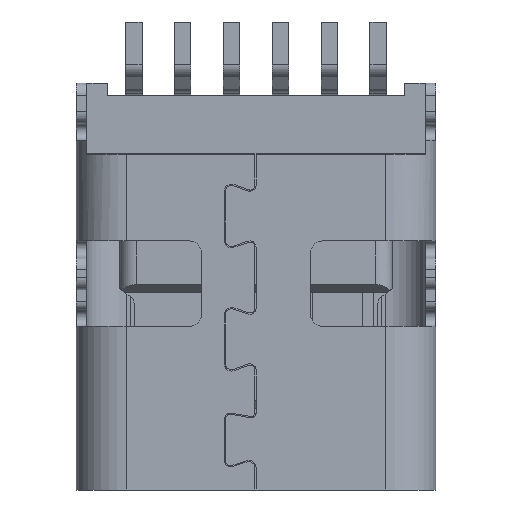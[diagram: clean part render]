
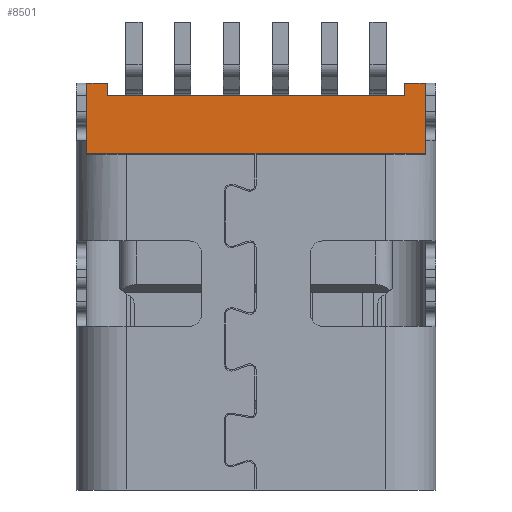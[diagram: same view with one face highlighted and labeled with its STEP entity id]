
A CAD part, front view. The second image highlights one B-rep face of the part: STEP entity #8501.
In plain terms, the highlighted planar face has unit normal (0, -1, 0).
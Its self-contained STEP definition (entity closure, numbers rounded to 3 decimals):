
#1654=DIRECTION('',(0.,0.,1.));
#1655=VECTOR('',#1654,1.74);
#1656=CARTESIAN_POINT('',(4.155,-1.495,-5.778));
#1657=LINE('',#1656,#1655);
#1670=DIRECTION('',(1.,0.,0.));
#1671=VECTOR('',#1670,7.31);
#1672=CARTESIAN_POINT('',(-3.655,-1.495,-4.338));
#1673=LINE('',#1672,#1671);
#1678=DIRECTION('',(0.,0.,1.));
#1679=VECTOR('',#1678,0.3);
#1680=CARTESIAN_POINT('',(-3.655,-1.495,-4.338));
#1681=LINE('',#1680,#1679);
#1694=DIRECTION('',(-1.,0.,0.));
#1695=VECTOR('',#1694,0.5);
#1696=CARTESIAN_POINT('',(-3.655,-1.495,-4.038));
#1697=LINE('',#1696,#1695);
#1733=DIRECTION('',(0.,0.,-1.));
#1734=VECTOR('',#1733,1.74);
#1735=CARTESIAN_POINT('',(-4.155,-1.495,-4.038));
#1736=LINE('',#1735,#1734);
#1757=DIRECTION('',(1.,0.,0.));
#1758=VECTOR('',#1757,8.31);
#1759=CARTESIAN_POINT('',(-4.155,-1.495,-5.778));
#1760=LINE('',#1759,#1758);
#2006=DIRECTION('',(-1.,0.,0.));
#2007=VECTOR('',#2006,0.5);
#2008=CARTESIAN_POINT('',(4.155,-1.495,-4.038));
#2009=LINE('',#2008,#2007);
#2033=DIRECTION('',(0.,0.,-1.));
#2034=VECTOR('',#2033,0.3);
#2035=CARTESIAN_POINT('',(3.655,-1.495,-4.038));
#2036=LINE('',#2035,#2034);
#5106=CARTESIAN_POINT('',(-3.655,-1.495,-4.338));
#5107=CARTESIAN_POINT('',(3.655,-1.495,-4.338));
#5108=VERTEX_POINT('',#5106);
#5109=VERTEX_POINT('',#5107);
#5330=CARTESIAN_POINT('',(3.655,-1.495,-4.038));
#5331=VERTEX_POINT('',#5330);
#5590=CARTESIAN_POINT('',(-4.155,-1.495,-4.038));
#5591=CARTESIAN_POINT('',(-4.155,-1.495,-5.778));
#5592=VERTEX_POINT('',#5590);
#5593=VERTEX_POINT('',#5591);
#5870=CARTESIAN_POINT('',(-3.655,-1.495,-4.038));
#5871=VERTEX_POINT('',#5870);
#5872=CARTESIAN_POINT('',(4.155,-1.495,-4.038));
#5873=VERTEX_POINT('',#5872);
#5886=CARTESIAN_POINT('',(4.155,-1.495,-5.778));
#5887=VERTEX_POINT('',#5886);
#8479=CARTESIAN_POINT('',(0.,-1.495,-4.908));
#8480=DIRECTION('',(0.,1.,0.));
#8481=DIRECTION('',(1.,0.,0.));
#8482=AXIS2_PLACEMENT_3D('',#8479,#8480,#8481);
#8483=PLANE('',#8482);
#8485=ORIENTED_EDGE('',*,*,#8484,.T.);
#8487=ORIENTED_EDGE('',*,*,#8486,.F.);
#8489=ORIENTED_EDGE('',*,*,#8488,.F.);
#8490=ORIENTED_EDGE('',*,*,#8455,.F.);
#8492=ORIENTED_EDGE('',*,*,#8491,.F.);
#8494=ORIENTED_EDGE('',*,*,#8493,.F.);
#8496=ORIENTED_EDGE('',*,*,#8495,.F.);
#8498=ORIENTED_EDGE('',*,*,#8497,.F.);
#8499=EDGE_LOOP('',(#8485,#8487,#8489,#8490,#8492,#8494,#8496,#8498));
#8500=FACE_OUTER_BOUND('',#8499,.F.);
#8455=EDGE_CURVE('',#5887,#5873,#1657,.T.);
#8484=EDGE_CURVE('',#5108,#5109,#1673,.T.);
#8486=EDGE_CURVE('',#5331,#5109,#2036,.T.);
#8488=EDGE_CURVE('',#5873,#5331,#2009,.T.);
#8491=EDGE_CURVE('',#5593,#5887,#1760,.T.);
#8493=EDGE_CURVE('',#5592,#5593,#1736,.T.);
#8495=EDGE_CURVE('',#5871,#5592,#1697,.T.);
#8497=EDGE_CURVE('',#5108,#5871,#1681,.T.);
#8501=ADVANCED_FACE('',(#8500),#8483,.F.);
